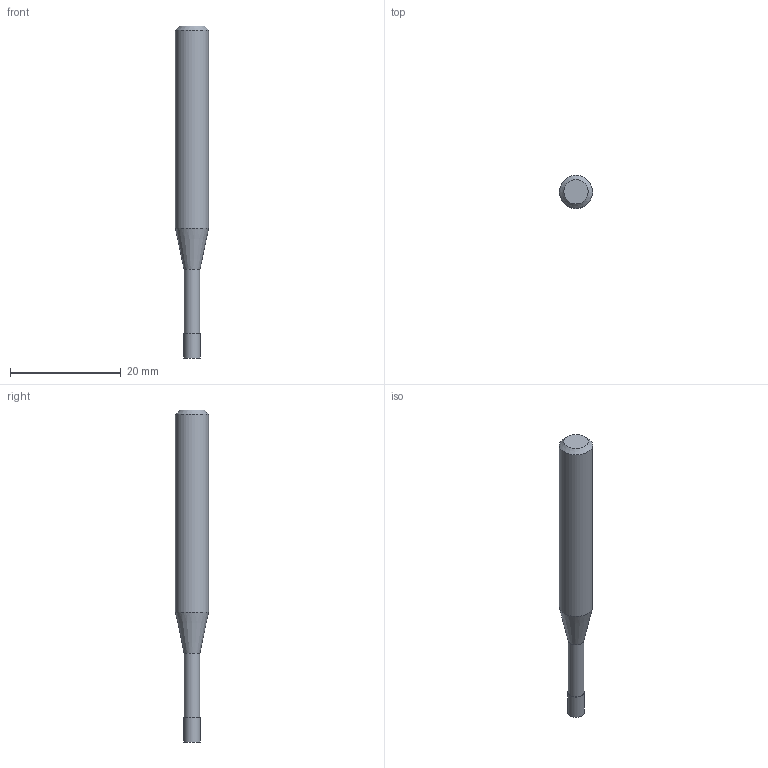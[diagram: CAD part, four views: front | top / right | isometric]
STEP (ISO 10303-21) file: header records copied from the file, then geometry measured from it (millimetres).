
FILE_DESCRIPTION((''),'2;1');
FILE_NAME('C:\Users\nsx150\AppData\Local\Temp\Mastercam 2021\17T8Q8S9EB\TEMP.step','2021-04-21T14:28:25',(''),(''),'STEP Write','Mastercam 2021 ... CNC Software, Inc.','');
FILE_SCHEMA(('AUTOMOTIVE_DESIGN'));
Length unit declared in the file: millimetre
Products named in the file (1): None
Bounding box: 6 x 6 x 60 mm (x, y, z)
Volume: 1253 mm3; surface area: 979.5 mm2
Topology: 2 solids, 2 shells, 9 faces, 12 edges, 7 vertices
Faces by surface type: plane 4, cylinder 3, cone 2
Full cylindrical faces by diameter (mm): 2.85 x1, 3 x1, 6 x1
Entity records: 211 total; most frequent: DIRECTION 36, CARTESIAN_POINT 25, AXIS2_PLACEMENT_3D 18, ORIENTED_EDGE 14, EDGE_LOOP 14, STYLED_ITEM 12, ADVANCED_FACE 9, FACE_BOUND 8
